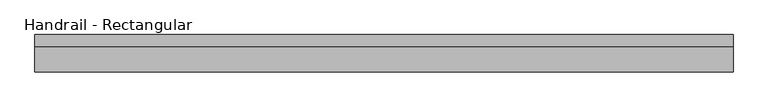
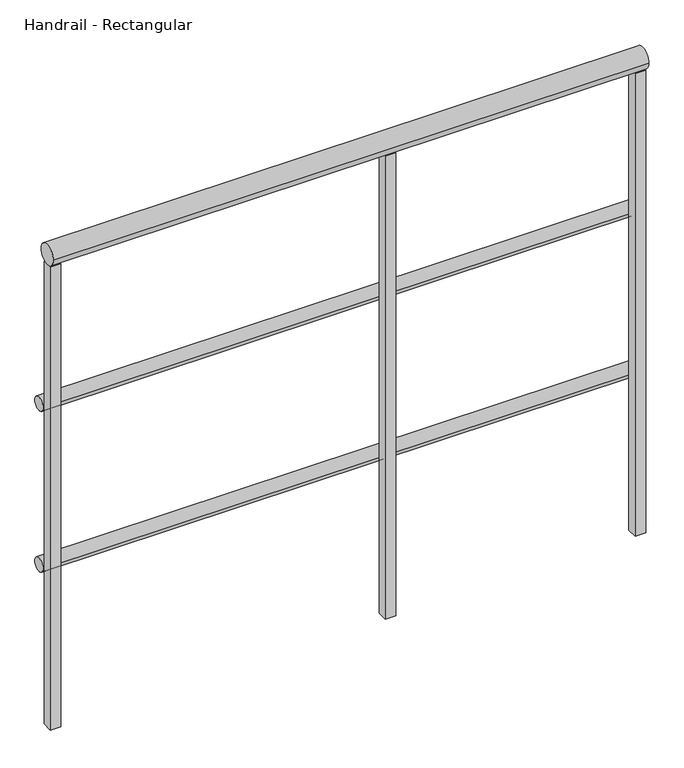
"""IFC4 building model written with IfcOpenShell, lengths in millimetres: railing geometry, Handrail - Rectangular."""

from ifc_helpers import new_model, si_unit, point, frame, frame_2d, origin, place, context, project, spatial, polyline, circle_curve, trimmed, segment, composite_curve, outline, extrude, source, transform, mapped, element, save


def handrail_rectangular_13a1ee30(model_context):
    return source(origin(), model_context, "Body", "SweptSolid", [
        extrude(outline(composite_curve([segment(trimmed(circle_curve(frame_2d((11970.2316867, 3644.9)), 12.7), [point((11982.9316867, 3644.9))], [point((11957.5316867, 3644.9))], False, "CARTESIAN"), True, "CONTINUOUS"), segment(trimmed(circle_curve(frame_2d((11970.2316867, 3644.9)), 12.7), [point((11957.5316867, 3644.9))], [point((11982.9316867, 3644.9))], False, "CARTESIAN"), True, "CONTINUOUS")], self_intersect=False)), frame((1027.1410437, 0.0, 0.0), z_axis=(1.0, 0.0, 0.0), x_axis=(0.0, 1.0, 0.0)), (0.0, 0.0, 1.0), 1066.8),
        extrude(outline(composite_curve([segment(trimmed(circle_curve(frame_2d((11970.2316867, 3340.1)), 12.7), [point((11982.9316867, 3340.1))], [point((11957.5316867, 3340.1))], False, "CARTESIAN"), True, "CONTINUOUS"), segment(trimmed(circle_curve(frame_2d((11970.2316867, 3340.1)), 12.7), [point((11957.5316867, 3340.1))], [point((11982.9316867, 3340.1))], False, "CARTESIAN"), True, "CONTINUOUS")], self_intersect=False)), frame((1027.1410437, 0.0, 0.0), z_axis=(1.0, 0.0, 0.0), x_axis=(0.0, 1.0, 0.0)), (0.0, 0.0, 1.0), 1066.8),
        extrude(outline(composite_curve([segment(trimmed(circle_curve(frame_2d((11944.8316867, 3943.35)), 19.05), [point((11963.8816867, 3943.35))], [point((11925.7816867, 3943.35))], False, "CARTESIAN"), True, "CONTINUOUS"), segment(trimmed(circle_curve(frame_2d((11944.8316867, 3943.35)), 19.05), [point((11925.7816867, 3943.35))], [point((11963.8816867, 3943.35))], False, "CARTESIAN"), True, "CONTINUOUS")], self_intersect=False)), frame((1027.1410437, 0.0, 0.0), z_axis=(1.0, 0.0, 0.0), x_axis=(0.0, 1.0, 0.0)), (0.0, 0.0, 1.0), 1066.8),
        extrude(outline(polyline([(1627.2160437, 11935.3066867), (1627.2160437, 11954.3566867), (1646.2660437, 11954.3566867), (1646.2660437, 11935.3066867), (1627.2160437, 11935.3066867)])), frame((0.0, 0.0, 3048.0), z_axis=(0.0, 0.0, 1.0), x_axis=(1.0, 0.0, 0.0)), (0.0, 0.0, 1.0), 876.3),
        extrude(outline(polyline([(2074.8910437, 11935.3066867), (2074.8910437, 11954.3566867), (2093.9410437, 11954.3566867), (2093.9410437, 11935.3066867), (2074.8910437, 11935.3066867)])), frame((0.0, 0.0, 3048.0), z_axis=(0.0, 0.0, 1.0), x_axis=(1.0, 0.0, 0.0)), (0.0, 0.0, 1.0), 876.3),
        extrude(outline(polyline([(1027.1410437, 11935.3066867), (1027.1410437, 11954.3566867), (1046.1910437, 11954.3566867), (1046.1910437, 11935.3066867), (1027.1410437, 11935.3066867)])), frame((0.0, 0.0, 3048.0), z_axis=(0.0, 0.0, 1.0), x_axis=(1.0, 0.0, 0.0)), (0.0, 0.0, 1.0), 876.3),
    ])


if __name__ == "__main__":
    model = new_model("IFC4")
    model_context = context("Model", 3, world=origin())
    ifc_project = project(units=[si_unit("LENGTHUNIT", "METRE", prefix="MILLI")], contexts=[model_context])
    site = spatial("IfcSite", under=ifc_project)
    building = spatial("IfcBuilding", under=site)
    placement = place(None, origin())
    handrail_rectangular_shape = handrail_rectangular_13a1ee30(model_context)
    element("IfcRailing", 1, ObjectType="Handrail - Rectangular", at=placement, inside=building, context=model_context, shape_type="MappedRepresentation", body=[
        mapped(handrail_rectangular_shape, transform((0.0, 0.0, 0.0), x_axis=(1.0, 0.0, 0.0), y_axis=(0.0, 1.0, 0.0), z_axis=(0.0, 0.0, 1.0))),
    ])
    save(model, "model.ifc")
